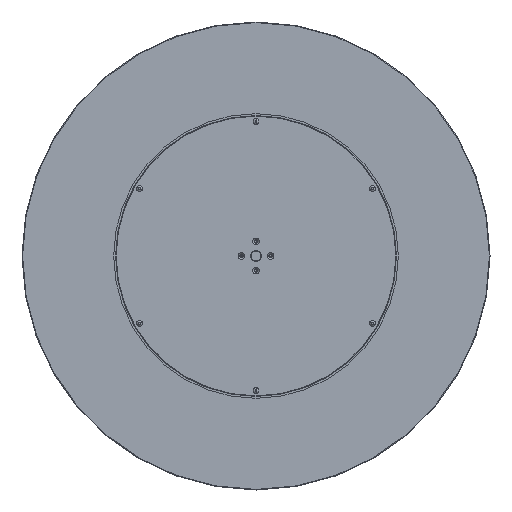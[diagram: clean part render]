
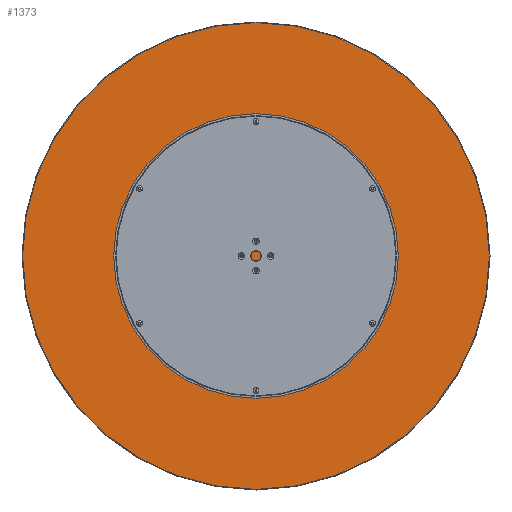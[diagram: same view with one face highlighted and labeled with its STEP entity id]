
A CAD part, front view. The second image highlights one B-rep face of the part: STEP entity #1373.
In plain terms, the highlighted planar face has unit normal (0, -1, 0).
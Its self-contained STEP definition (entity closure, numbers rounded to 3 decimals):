
#97 = DIRECTION ( 'NONE',  ( 0., 0., -1. ) ) ;
#302 = CIRCLE ( 'NONE', #3698, 3. ) ;
#312 = DIRECTION ( 'NONE',  ( 0., -1., 0. ) ) ;
#332 = AXIS2_PLACEMENT_3D ( 'NONE', #2748, #1003, #3823 ) ;
#409 = DIRECTION ( 'NONE',  ( 0., 0., -1. ) ) ;
#421 = ORIENTED_EDGE ( 'NONE', *, *, #1869, .F. ) ;
#445 = VERTEX_POINT ( 'NONE', #1258 ) ;
#511 = EDGE_LOOP ( 'NONE', ( #3742, #3124 ) ) ;
#568 = CIRCLE ( 'NONE', #3147, 3. ) ;
#598 = CARTESIAN_POINT ( 'NONE',  ( 0., 0., -598.5 ) ) ;
#620 = ORIENTED_EDGE ( 'NONE', *, *, #3031, .F. ) ;
#685 = AXIS2_PLACEMENT_3D ( 'NONE', #3039, #1333, #4154 ) ;
#744 = CARTESIAN_POINT ( 'NONE',  ( -187.03, 0., 187.03 ) ) ;
#770 = VERTEX_POINT ( 'NONE', #3786 ) ;
#771 = AXIS2_PLACEMENT_3D ( 'NONE', #1580, #2986, #2653 ) ;
#787 = ORIENTED_EDGE ( 'NONE', *, *, #3852, .T. ) ;
#841 = CARTESIAN_POINT ( 'NONE',  ( 187.03, 0., 184.03 ) ) ;
#842 = EDGE_LOOP ( 'NONE', ( #620, #421 ) ) ;
#862 = AXIS2_PLACEMENT_3D ( 'NONE', #2805, #312, #2741 ) ;
#875 = ORIENTED_EDGE ( 'NONE', *, *, #1709, .F. ) ;
#911 = EDGE_CURVE ( 'NONE', #2571, #3711, #2826, .T. ) ;
#986 = VERTEX_POINT ( 'NONE', #1551 ) ;
#1001 = AXIS2_PLACEMENT_3D ( 'NONE', #2191, #4267, #1095 ) ;
#1003 = DIRECTION ( 'NONE',  ( 0., -1., 0. ) ) ;
#1013 = CARTESIAN_POINT ( 'NONE',  ( 187.03, 0., -184.03 ) ) ;
#1026 = VERTEX_POINT ( 'NONE', #4300 ) ;
#1095 = DIRECTION ( 'NONE',  ( 0., 0., -1. ) ) ;
#1124 = DIRECTION ( 'NONE',  ( 0., -1., 0. ) ) ;
#1224 = ORIENTED_EDGE ( 'NONE', *, *, #2071, .T. ) ;
#1258 = CARTESIAN_POINT ( 'NONE',  ( -187.03, 0., 184.03 ) ) ;
#1307 = CIRCLE ( 'NONE', #862, 3. ) ;
#1333 = DIRECTION ( 'NONE',  ( 0., -1., 0. ) ) ;
#1337 = VERTEX_POINT ( 'NONE', #1013 ) ;
#1347 = CIRCLE ( 'NONE', #685, 3. ) ;
#1373 = ADVANCED_FACE ( 'NONE', ( #3507, #2437, #3833, #3550, #2136 ), #2866, .F. ) ;
#1419 = AXIS2_PLACEMENT_3D ( 'NONE', #2181, #3577, #409 ) ;
#1458 = EDGE_LOOP ( 'NONE', ( #787, #1224 ) ) ;
#1462 = CARTESIAN_POINT ( 'NONE',  ( 0., 0., 0. ) ) ;
#1470 = CARTESIAN_POINT ( 'NONE',  ( 0., 0., 0. ) ) ;
#1511 = DIRECTION ( 'NONE',  ( 0., -1., 0. ) ) ;
#1551 = CARTESIAN_POINT ( 'NONE',  ( 187.03, 0., -190.03 ) ) ;
#1580 = CARTESIAN_POINT ( 'NONE',  ( -187.03, 0., 187.03 ) ) ;
#1586 = ORIENTED_EDGE ( 'NONE', *, *, #3845, .F. ) ;
#1709 = EDGE_CURVE ( 'NONE', #986, #1337, #1347, .T. ) ;
#1785 = AXIS2_PLACEMENT_3D ( 'NONE', #2501, #3531, #3876 ) ;
#1869 = EDGE_CURVE ( 'NONE', #1026, #445, #302, .T. ) ;
#1939 = AXIS2_PLACEMENT_3D ( 'NONE', #1462, #1124, #3916 ) ;
#2071 = EDGE_CURVE ( 'NONE', #4426, #770, #2393, .T. ) ;
#2087 = CARTESIAN_POINT ( 'NONE',  ( 187.03, 0., 190.03 ) ) ;
#2110 = CIRCLE ( 'NONE', #771, 3. ) ;
#2136 = FACE_OUTER_BOUND ( 'NONE', #1458, .T. ) ;
#2164 = DIRECTION ( 'NONE',  ( 0., 0., -1. ) ) ;
#2181 = CARTESIAN_POINT ( 'NONE',  ( 187.03, 0., 187.03 ) ) ;
#2191 = CARTESIAN_POINT ( 'NONE',  ( 187.03, 0., 187.03 ) ) ;
#2314 = CARTESIAN_POINT ( 'NONE',  ( -187.03, 0., -187.03 ) ) ;
#2362 = ORIENTED_EDGE ( 'NONE', *, *, #2760, .F. ) ;
#2393 = CIRCLE ( 'NONE', #1939, 598.5 ) ;
#2437 = FACE_BOUND ( 'NONE', #4273, .T. ) ;
#2450 = CARTESIAN_POINT ( 'NONE',  ( -187.03, 0., -184.03 ) ) ;
#2501 = CARTESIAN_POINT ( 'NONE',  ( 0., 0., 0. ) ) ;
#2513 = CARTESIAN_POINT ( 'NONE',  ( -187.03, 0., -190.03 ) ) ;
#2571 = VERTEX_POINT ( 'NONE', #841 ) ;
#2653 = DIRECTION ( 'NONE',  ( 0., 0., -1. ) ) ;
#2741 = DIRECTION ( 'NONE',  ( 0., 0., -1. ) ) ;
#2748 = CARTESIAN_POINT ( 'NONE',  ( 187.03, 0., -187.03 ) ) ;
#2760 = EDGE_CURVE ( 'NONE', #1337, #986, #3514, .T. ) ;
#2805 = CARTESIAN_POINT ( 'NONE',  ( -187.03, 0., -187.03 ) ) ;
#2826 = CIRCLE ( 'NONE', #1419, 3. ) ;
#2855 = AXIS2_PLACEMENT_3D ( 'NONE', #1470, #1511, #3713 ) ;
#2866 = PLANE ( 'NONE',  #1785 ) ;
#2902 = EDGE_CURVE ( 'NONE', #3711, #2571, #3717, .T. ) ;
#2907 = VERTEX_POINT ( 'NONE', #2513 ) ;
#2986 = DIRECTION ( 'NONE',  ( 0., -1., 0. ) ) ;
#3031 = EDGE_CURVE ( 'NONE', #445, #1026, #2110, .T. ) ;
#3039 = CARTESIAN_POINT ( 'NONE',  ( 187.03, 0., -187.03 ) ) ;
#3124 = ORIENTED_EDGE ( 'NONE', *, *, #2902, .F. ) ;
#3147 = AXIS2_PLACEMENT_3D ( 'NONE', #2314, #4089, #97 ) ;
#3507 = FACE_BOUND ( 'NONE', #4518, .T. ) ;
#3514 = CIRCLE ( 'NONE', #332, 3. ) ;
#3531 = DIRECTION ( 'NONE',  ( 0., 1., 0. ) ) ;
#3550 = FACE_BOUND ( 'NONE', #842, .T. ) ;
#3577 = DIRECTION ( 'NONE',  ( 0., -1., 0. ) ) ;
#3698 = AXIS2_PLACEMENT_3D ( 'NONE', #744, #4239, #2164 ) ;
#3711 = VERTEX_POINT ( 'NONE', #2087 ) ;
#3713 = DIRECTION ( 'NONE',  ( 0., 0., 1. ) ) ;
#3717 = CIRCLE ( 'NONE', #1001, 3. ) ;
#3742 = ORIENTED_EDGE ( 'NONE', *, *, #911, .F. ) ;
#3786 = CARTESIAN_POINT ( 'NONE',  ( 0., 0., 598.5 ) ) ;
#3823 = DIRECTION ( 'NONE',  ( 0., 0., -1. ) ) ;
#3833 = FACE_BOUND ( 'NONE', #511, .T. ) ;
#3843 = ORIENTED_EDGE ( 'NONE', *, *, #3926, .F. ) ;
#3845 = EDGE_CURVE ( 'NONE', #4515, #2907, #568, .T. ) ;
#3852 = EDGE_CURVE ( 'NONE', #770, #4426, #4110, .T. ) ;
#3876 = DIRECTION ( 'NONE',  ( 0., 0., 1. ) ) ;
#3916 = DIRECTION ( 'NONE',  ( 0., 0., 1. ) ) ;
#3926 = EDGE_CURVE ( 'NONE', #2907, #4515, #1307, .T. ) ;
#4089 = DIRECTION ( 'NONE',  ( 0., -1., 0. ) ) ;
#4110 = CIRCLE ( 'NONE', #2855, 598.5 ) ;
#4154 = DIRECTION ( 'NONE',  ( 0., 0., -1. ) ) ;
#4239 = DIRECTION ( 'NONE',  ( 0., -1., 0. ) ) ;
#4267 = DIRECTION ( 'NONE',  ( 0., -1., 0. ) ) ;
#4273 = EDGE_LOOP ( 'NONE', ( #875, #2362 ) ) ;
#4300 = CARTESIAN_POINT ( 'NONE',  ( -187.03, 0., 190.03 ) ) ;
#4426 = VERTEX_POINT ( 'NONE', #598 ) ;
#4515 = VERTEX_POINT ( 'NONE', #2450 ) ;
#4518 = EDGE_LOOP ( 'NONE', ( #3843, #1586 ) ) ;
